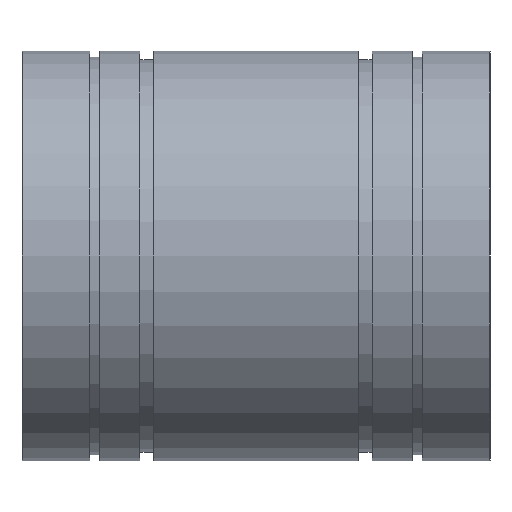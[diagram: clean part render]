
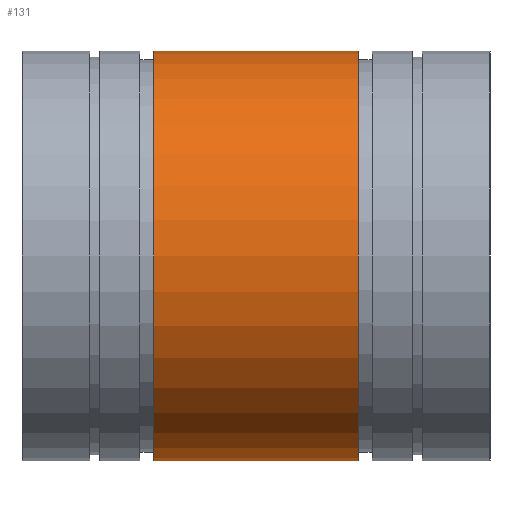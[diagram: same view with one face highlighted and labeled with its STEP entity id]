
A CAD part, front view. The second image highlights one B-rep face of the part: STEP entity #131.
In plain terms, the highlighted cylindrical face has radius 105 mm (diameter 210 mm), a full revolution.
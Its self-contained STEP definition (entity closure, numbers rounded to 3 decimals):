
#131=ADVANCED_FACE('',(#173,#174),#175,.T.);
#173=FACE_OUTER_BOUND('',#246,.T.);
#174=FACE_OUTER_BOUND('',#247,.T.);
#175=CYLINDRICAL_SURFACE('',#248,105.0);
#246=EDGE_LOOP('',(#335));
#247=EDGE_LOOP('',(#336));
#248=AXIS2_PLACEMENT_3D('',#337,#338,#339);
#335=ORIENTED_EDGE('',*,*,#424,.F.);
#336=ORIENTED_EDGE('',*,*,#425,.T.);
#337=CARTESIAN_POINT('',(0.0,0.0,0.0));
#338=DIRECTION('',(1.0,-0.0,-0.0));
#339=DIRECTION('',(0.0,0.0,1.0));
#424=EDGE_CURVE('',#459,#459,#460,.T.);
#425=EDGE_CURVE('',#461,#461,#462,.T.);
#459=VERTEX_POINT('',#507);
#460=CIRCLE('',#508,105.0);
#461=VERTEX_POINT('',#509);
#462=CIRCLE('',#510,105.0);
#507=CARTESIAN_POINT('',(67.511,0.0,105.0));
#508=AXIS2_PLACEMENT_3D('',#563,#564,#565);
#509=CARTESIAN_POINT('',(172.489,0.0,105.0));
#510=AXIS2_PLACEMENT_3D('',#566,#567,#568);
#563=CARTESIAN_POINT('',(67.511,0.0,0.0));
#564=DIRECTION('',(-1.0,0.0,0.0));
#565=DIRECTION('',(0.0,0.0,1.0));
#566=CARTESIAN_POINT('',(172.489,0.0,0.0));
#567=DIRECTION('',(-1.0,0.0,0.0));
#568=DIRECTION('',(0.0,0.0,1.0));
